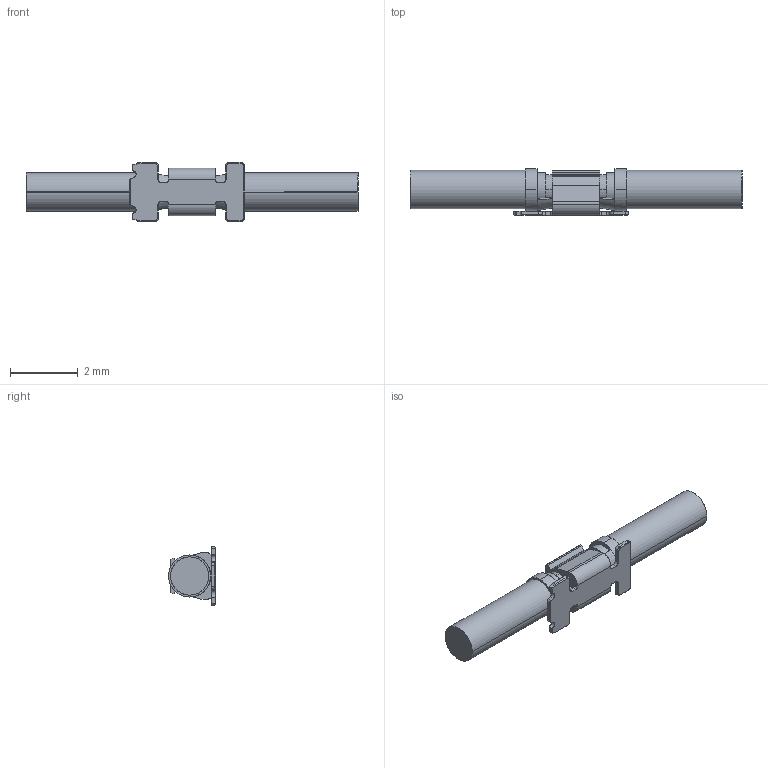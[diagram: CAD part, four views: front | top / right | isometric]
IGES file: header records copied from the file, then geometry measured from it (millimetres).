
Start section: SolidWorks IGES file using analytic representation for surfaces
Global section: file name: C:\3dwork\今地\MP-A series 3D 2D data\IGES\3182C MP-A02 IGES R0 ALL.IGS,1; native system: 5HSolidWorks 2014; preprocessor: SolidWorks 2014; author: 3dcad; date: 170703.201147; units: millimetre
Bounding box: 9.8 x 1.38 x 1.75 mm (x, y, z)
Surface area: 48.2 mm2 (no closed solid volume)
Topology: 0 solids, 0 shells, 155 faces, 1297 edges, 1297 vertices
Faces by surface type: bspline 104, revolution 51
